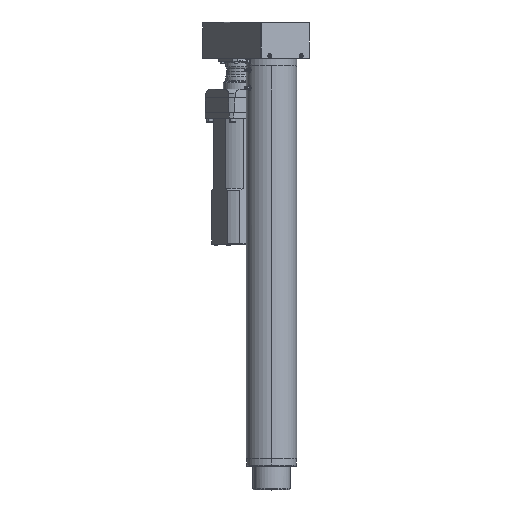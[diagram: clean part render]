
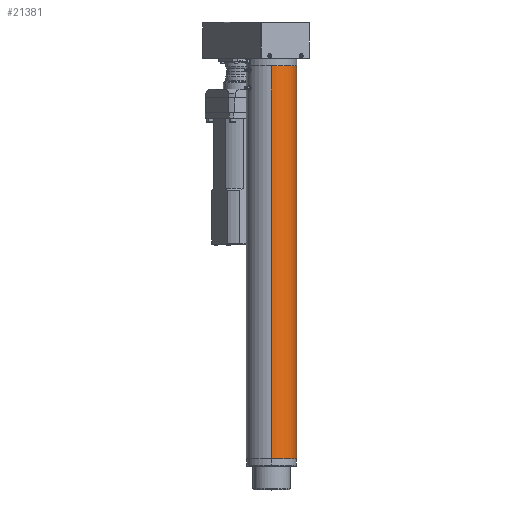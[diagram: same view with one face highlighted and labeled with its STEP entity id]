
A CAD part, top view. The second image highlights one B-rep face of the part: STEP entity #21381.
In plain terms, the highlighted cylindrical face has radius 64.5 mm (diameter 129 mm), a partial arc.
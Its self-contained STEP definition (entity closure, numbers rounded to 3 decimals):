
#615 = ORIENTED_EDGE ( 'NONE', *, *, #35363, .T. ) ;
#1044 = CIRCLE ( 'NONE', #2766, 64.5 ) ;
#1423 = CARTESIAN_POINT ( 'NONE',  ( 71.219, -178.379, 97.194 ) ) ;
#1536 = DIRECTION ( 'NONE',  ( 0., -1., 0. ) ) ;
#2766 = AXIS2_PLACEMENT_3D ( 'NONE', #1423, #5457, #25805 ) ;
#4279 = VERTEX_POINT ( 'NONE', #25794 ) ;
#5457 = DIRECTION ( 'NONE',  ( 0., -1., 0. ) ) ;
#9649 = FACE_OUTER_BOUND ( 'NONE', #11206, .T. ) ;
#10917 = DIRECTION ( 'NONE',  ( 0., -1., 0. ) ) ;
#11054 = VECTOR ( 'NONE', #1536, 1000. ) ;
#11206 = EDGE_LOOP ( 'NONE', ( #615, #48110, #11967, #35907 ) ) ;
#11967 = ORIENTED_EDGE ( 'NONE', *, *, #28799, .F. ) ;
#13841 = CARTESIAN_POINT ( 'NONE',  ( 71.219, 822.121, 32.694 ) ) ;
#15965 = DIRECTION ( 'NONE',  ( 0., -1., 0. ) ) ;
#19549 = EDGE_CURVE ( 'NONE', #4279, #39426, #46594, .T. ) ;
#21381 = ADVANCED_FACE ( 'NONE', ( #9649 ), #25753, .T. ) ;
#21747 = CARTESIAN_POINT ( 'NONE',  ( 71.219, -198.379, 32.694 ) ) ;
#22462 = DIRECTION ( 'NONE',  ( 0., -1., 0. ) ) ;
#25377 = LINE ( 'NONE', #21747, #11054 ) ;
#25753 = CYLINDRICAL_SURFACE ( 'NONE', #48920, 64.5 ) ;
#25794 = CARTESIAN_POINT ( 'NONE',  ( 71.219, 822.121, 161.694 ) ) ;
#25805 = DIRECTION ( 'NONE',  ( 0., 0., -1. ) ) ;
#27088 = DIRECTION ( 'NONE',  ( 0., 0., -1. ) ) ;
#27623 = DIRECTION ( 'NONE',  ( 0., 0., -1. ) ) ;
#28799 = EDGE_CURVE ( 'NONE', #51483, #39426, #1044, .T. ) ;
#29493 = CIRCLE ( 'NONE', #37981, 64.5 ) ;
#35363 = EDGE_CURVE ( 'NONE', #42279, #4279, #29493, .T. ) ;
#35907 = ORIENTED_EDGE ( 'NONE', *, *, #36562, .F. ) ;
#36562 = EDGE_CURVE ( 'NONE', #42279, #51483, #25377, .T. ) ;
#37981 = AXIS2_PLACEMENT_3D ( 'NONE', #48069, #15965, #27623 ) ;
#39426 = VERTEX_POINT ( 'NONE', #48905 ) ;
#42279 = VERTEX_POINT ( 'NONE', #13841 ) ;
#43139 = CARTESIAN_POINT ( 'NONE',  ( 71.219, -198.379, 161.694 ) ) ;
#46594 = LINE ( 'NONE', #43139, #46922 ) ;
#46922 = VECTOR ( 'NONE', #22462, 1000. ) ;
#47259 = CARTESIAN_POINT ( 'NONE',  ( 71.219, -198.379, 97.194 ) ) ;
#48069 = CARTESIAN_POINT ( 'NONE',  ( 71.219, 822.121, 97.194 ) ) ;
#48110 = ORIENTED_EDGE ( 'NONE', *, *, #19549, .T. ) ;
#48692 = CARTESIAN_POINT ( 'NONE',  ( 71.219, -178.379, 32.694 ) ) ;
#48905 = CARTESIAN_POINT ( 'NONE',  ( 71.219, -178.379, 161.694 ) ) ;
#48920 = AXIS2_PLACEMENT_3D ( 'NONE', #47259, #10917, #27088 ) ;
#51483 = VERTEX_POINT ( 'NONE', #48692 ) ;
